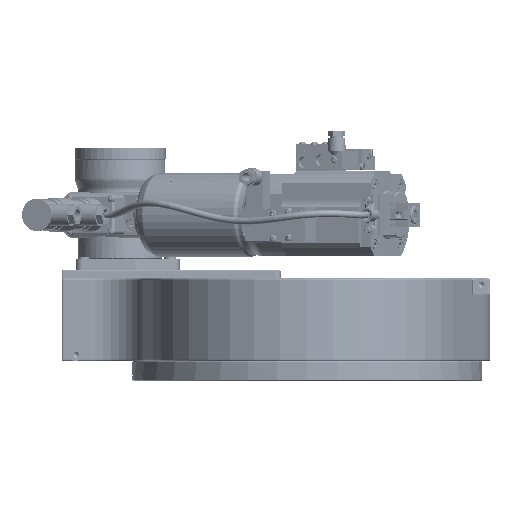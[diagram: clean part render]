
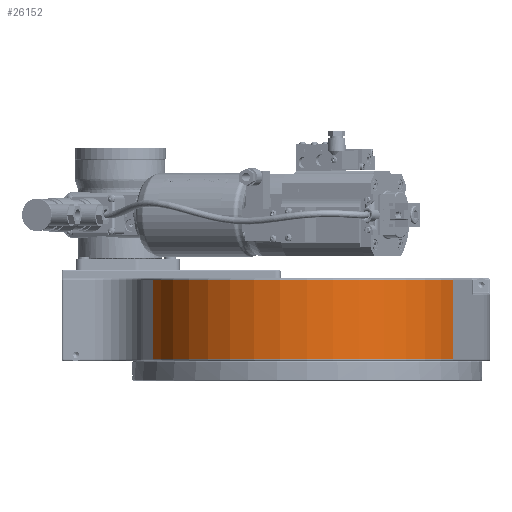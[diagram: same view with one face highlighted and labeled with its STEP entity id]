
A CAD part, front view. The second image highlights one B-rep face of the part: STEP entity #26152.
In plain terms, the highlighted cylindrical face has radius 135 mm (diameter 270 mm), a partial arc.
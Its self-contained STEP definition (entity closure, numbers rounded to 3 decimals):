
#13049=LINE('',#104934,#17074);
#13071=LINE('',#104991,#17096);
#17074=VECTOR('',#82815,1.);
#17096=VECTOR('',#82859,1.);
#21230=CYLINDRICAL_SURFACE('',#74970,135.);
#26152=ADVANCED_FACE('',(#31803),#21230,.T.);
#31803=FACE_OUTER_BOUND('',#34980,.T.);
#34980=EDGE_LOOP('',(#41706,#41707,#41708,#41709));
#41706=ORIENTED_EDGE('',*,*,#63862,.F.);
#41707=ORIENTED_EDGE('',*,*,#63864,.T.);
#41708=ORIENTED_EDGE('',*,*,#63835,.T.);
#41709=ORIENTED_EDGE('',*,*,#63865,.T.);
#57549=VERTEX_POINT('',#104935);
#57550=VERTEX_POINT('',#104936);
#57572=VERTEX_POINT('',#104990);
#57573=VERTEX_POINT('',#104992);
#63835=EDGE_CURVE('',#57549,#57550,#13049,.T.);
#63862=EDGE_CURVE('',#57572,#57573,#13071,.T.);
#63864=EDGE_CURVE('',#57572,#57549,#71802,.T.);
#63865=EDGE_CURVE('',#57550,#57573,#71803,.T.);
#71802=CIRCLE('',#74968,135.);
#71803=CIRCLE('',#74969,135.);
#74968=AXIS2_PLACEMENT_3D('',#104995,#82863,#82864);
#74969=AXIS2_PLACEMENT_3D('',#104996,#82865,#82866);
#74970=AXIS2_PLACEMENT_3D('',#104997,#82867,#82868);
#82815=DIRECTION('',(0.,0.,-1.));
#82859=DIRECTION('',(0.,0.,-1.));
#82863=DIRECTION('',(0.,0.,-1.));
#82864=DIRECTION('',(1.,0.,0.));
#82865=DIRECTION('',(0.,0.,1.));
#82866=DIRECTION('',(1.,0.,0.));
#82867=DIRECTION('',(0.,0.,-1.));
#82868=DIRECTION('',(-1.,0.,0.));
#104934=CARTESIAN_POINT('',(-132.05,-93.068,71.));
#104935=CARTESIAN_POINT('',(-132.05,-93.068,69.5));
#104936=CARTESIAN_POINT('',(-132.05,-93.068,1.5));
#104990=CARTESIAN_POINT('',(125.017,-115.948,69.5));
#104991=CARTESIAN_POINT('',(125.017,-115.948,71.));
#104992=CARTESIAN_POINT('',(125.017,-115.948,1.5));
#104995=CARTESIAN_POINT('',(0.,-65.,69.5));
#104996=CARTESIAN_POINT('',(0.,-65.,1.5));
#104997=CARTESIAN_POINT('',(0.,-65.,71.));
